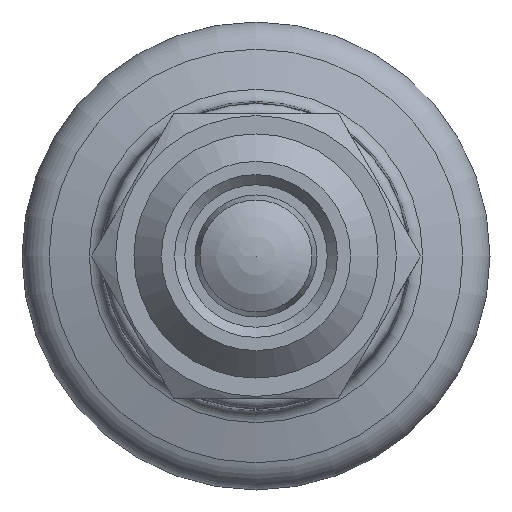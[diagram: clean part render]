
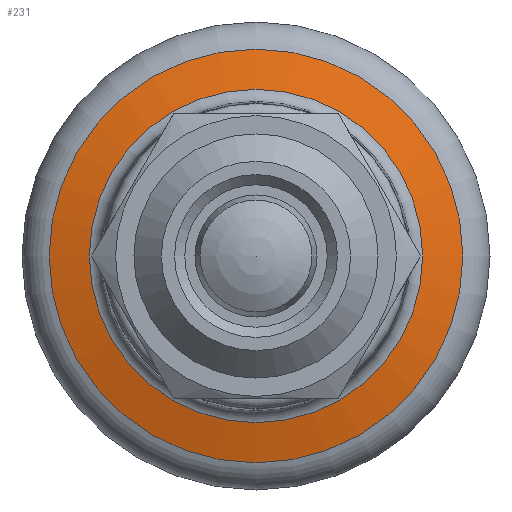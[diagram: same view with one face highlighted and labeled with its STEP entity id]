
A CAD part, front view. The second image highlights one B-rep face of the part: STEP entity #231.
In plain terms, the highlighted conical face has half-angle 75 degrees and reference radius 10.166 mm.
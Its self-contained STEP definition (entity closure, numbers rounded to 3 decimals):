
#231 = ADVANCED_FACE( '', ( #315, #316 ), #317, .T. );
#315 = FACE_BOUND( '', #458, .T. );
#316 = FACE_OUTER_BOUND( '', #459, .T. );
#317 = CONICAL_SURFACE( '', #460, 10.166, 1.309 );
#458 = EDGE_LOOP( '', ( #641 ) );
#459 = EDGE_LOOP( '', ( #642 ) );
#460 = AXIS2_PLACEMENT_3D( '', #643, #644, #645 );
#641 = ORIENTED_EDGE( '', *, *, #743, .F. );
#642 = ORIENTED_EDGE( '', *, *, #742, .T. );
#643 = CARTESIAN_POINT( '', ( 0., 50.143, 0. ) );
#644 = DIRECTION( '', ( 0., 1., 0. ) );
#645 = DIRECTION( '', ( 0., 0., 1. ) );
#742 = EDGE_CURVE( '', #820, #820, #821, .T. );
#743 = EDGE_CURVE( '', #822, #822, #823, .T. );
#820 = VERTEX_POINT( '', #1040 );
#821 = CIRCLE( '', #1041, 10.166 );
#822 = VERTEX_POINT( '', #1042 );
#823 = CIRCLE( '', #1043, 8.192 );
#1040 = CARTESIAN_POINT( '', ( 0., 50.143, -10.166 ) );
#1041 = AXIS2_PLACEMENT_3D( '', #1123, #1124, #1125 );
#1042 = CARTESIAN_POINT( '', ( 0., 49.614, -8.192 ) );
#1043 = AXIS2_PLACEMENT_3D( '', #1126, #1127, #1128 );
#1123 = CARTESIAN_POINT( '', ( 0., 50.143, 0. ) );
#1124 = DIRECTION( '', ( 0., -1., 0. ) );
#1125 = DIRECTION( '', ( 0., 0., -1. ) );
#1126 = CARTESIAN_POINT( '', ( 0., 49.614, 0. ) );
#1127 = DIRECTION( '', ( 0., -1., 0. ) );
#1128 = DIRECTION( '', ( 0., 0., -1. ) );
